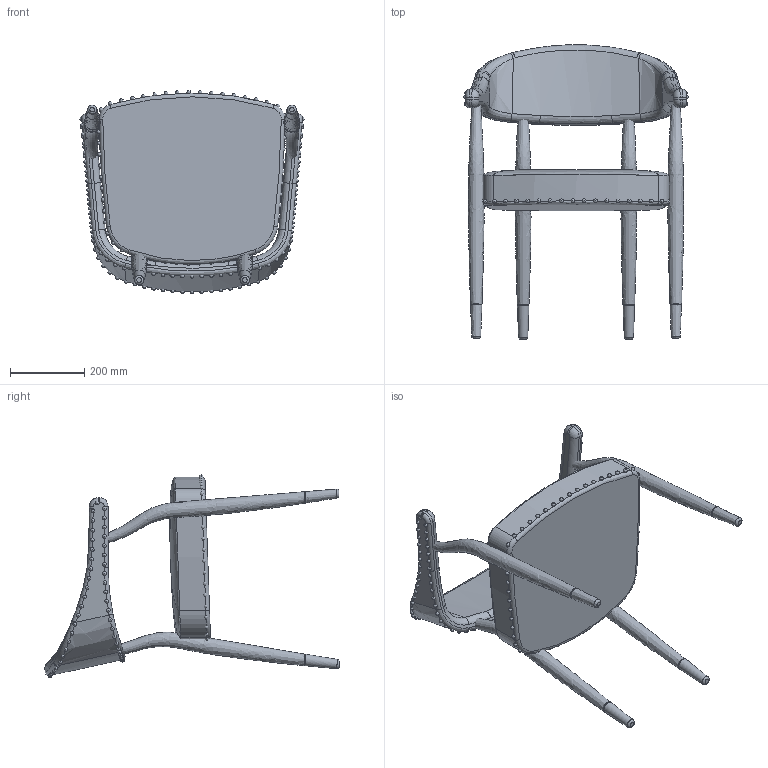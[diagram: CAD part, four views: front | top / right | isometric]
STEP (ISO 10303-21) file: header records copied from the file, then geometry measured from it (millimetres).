
FILE_DESCRIPTION (( 'STEP AP203' ), '1' );
FILE_NAME ('Maria.STEP', '2018-02-05T10:19:04', ( '' ), ( '' ), 'SwSTEP 2.0', 'SolidWorks 2017', '' );
FILE_SCHEMA (( 'CONFIG_CONTROL_DESIGN' ));
Length unit declared in the file: millimetre
Products named in the file (1): Maria
Bounding box: 602.88 x 791.04 x 545.61 mm (x, y, z)
Volume: 27242801.8 mm3; surface area: 1259103.4 mm2
Topology: 169 solids, 169 shells, 316 faces, 811 edges, 507 vertices
Faces by surface type: sphere 159, bspline 89, plane 30, cylinder 30, torus 8
Entity records: 16539 total; most frequent: CARTESIAN_POINT 12901, DIRECTION 648, ORIENTED_EDGE 580, ADVANCED_FACE 316, AXIS2_PLACEMENT_3D 296, EDGE_CURVE 290, FACE_OUTER_BOUND 181, EDGE_LOOP 181
